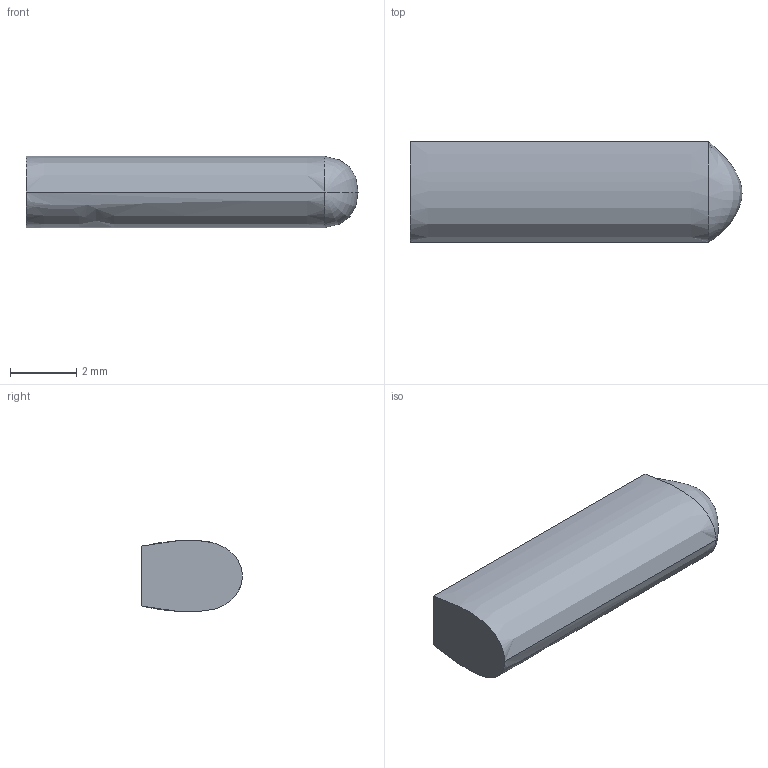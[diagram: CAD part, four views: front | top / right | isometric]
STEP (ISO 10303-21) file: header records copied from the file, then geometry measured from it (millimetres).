
FILE_DESCRIPTION((''),'1');
FILE_NAME('ELEK-ST10-14E','2001-03-29T',('rgoetz'),(''),'PRO/ENGINEER BY PARAMETRIC TECHNOLOGY CORPORATION, 2000350','PRO/ENGINEER BY PARAMETRIC TECHNOLOGY CORPORATION, 2000350','');
FILE_SCHEMA(('CONFIG_CONTROL_DESIGN'));
Length unit declared in the file: millimetre
Products named in the file (1): ELEK-ST10-14E
Bounding box: 10 x 3.03 x 2.16 mm (x, y, z)
Volume: 54.7 mm3; surface area: 95.7 mm2
Topology: 1 solids, 1 shells, 6 faces, 13 edges, 7 vertices
Faces by surface type: plane 2, extrusion 2, bspline 2
Entity records: 515 total; most frequent: CARTESIAN_POINT 374, ORIENTED_EDGE 22, EDGE_CURVE 11, DIRECTION 10, B_SPLINE_CURVE_WITH_KNOTS 9, VERTEX_POINT 7, VECTOR 6, EDGE_LOOP 6
